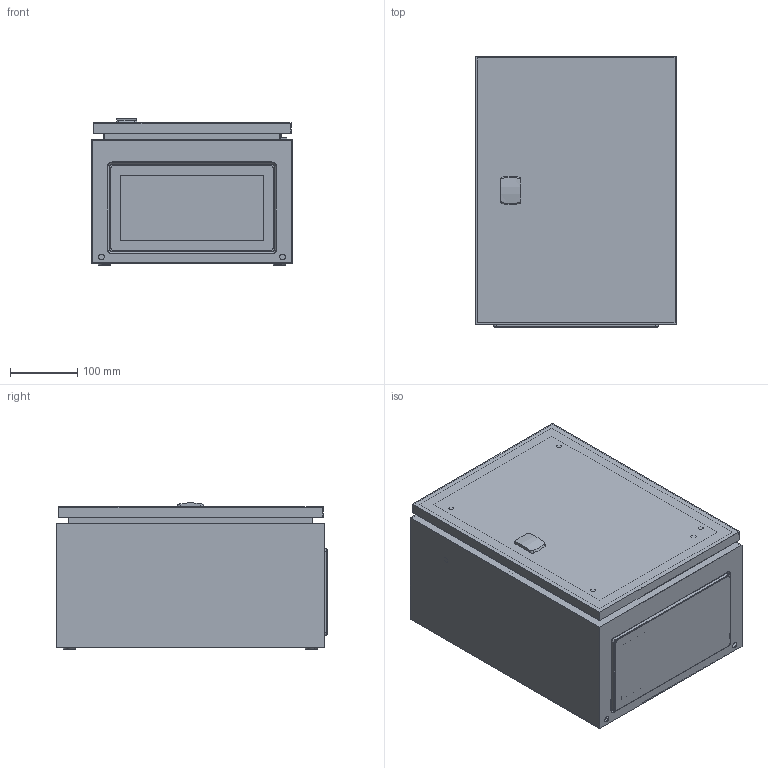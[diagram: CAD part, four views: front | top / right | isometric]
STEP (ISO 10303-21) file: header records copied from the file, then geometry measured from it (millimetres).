
FILE_DESCRIPTION( ( 'STEP AP214' ), '1' );
FILE_NAME( 'p:/temp/worker_165/temp/exporttempdir_4960_278_GOOnw/format_0/MAS0403021R5(0).stp', '2021-03-15T19:34:41', ( 'License CC BY-ND 4.0' ), ( 'CADENAS' ), ' ', 'PARTsolutions', ' ' );
FILE_SCHEMA( ( 'AUTOMOTIVE_DESIGN { 1 0 10303 214 1 1 1 1 }' ) );
Length unit declared in the file: millimetre
Products named in the file (8): MAS0403021R5(0); _MAS0403021(0); _MMSH06SS(0)_right; _ADP04030R5(0); _ALL503(0,0); _AMP04030_MPL(0); _AF01R5_GP(0); _AG01_GPG(0)
Assembly tree (8 placements, depth 2):
  MAS0403021R5(0)
    _MAS0403021(0)
    _MMSH06SS(0)_right  x2
    _ADP04030R5(0)
    _ALL503(0,0)
    _AMP04030_MPL(0)
    _AF01R5_GP(0)
    _AG01_GPG(0)
Bounding box: 300 x 404.2 x 217.67 mm (x, y, z)
Volume: 1179747.2 mm3; surface area: 1405896.4 mm2
Topology: 8 solids, 8 shells, 369 faces, 876 edges, 570 vertices
Faces by surface type: plane 237, cylinder 84, cone 47, torus 1
Full cylindrical faces by diameter (mm): 4.9 x2, 6 x4, 7 x4, 8 x7, 8.5 x4, 8.7 x2, 9 x2, 14 x7, 18 x1, 27 x1
Entity records: 12557 total; most frequent: CARTESIAN_POINT 1772, DIRECTION 1645, ORIENTED_EDGE 1484, EDGE_CURVE 742, AXIS2_PLACEMENT_3D 581, VERTEX_POINT 524, EDGE_LOOP 487, LINE 483
